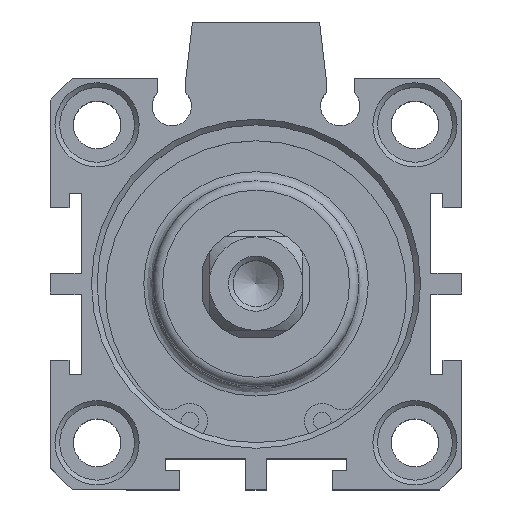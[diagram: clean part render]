
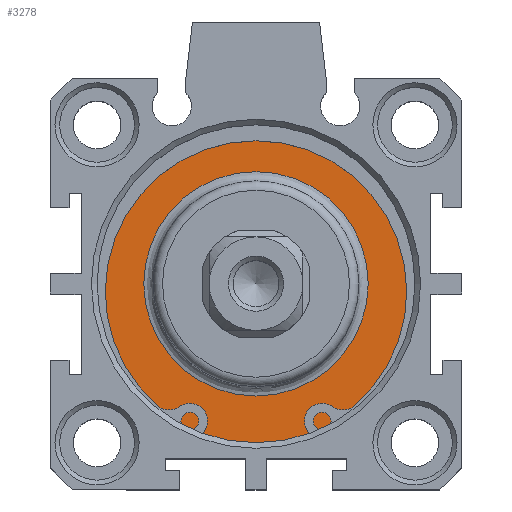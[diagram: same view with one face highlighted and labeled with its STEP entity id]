
A CAD part, top view. The second image highlights one B-rep face of the part: STEP entity #3278.
In plain terms, the highlighted planar face has unit normal (0, 0, 1).
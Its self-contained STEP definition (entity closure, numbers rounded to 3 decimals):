
#3227=CARTESIAN_POINT('',(-3.726,11.88,30.3));
#3228=VERTEX_POINT('',#3227);
#3229=CARTESIAN_POINT('',(-3.726,-0.12,30.3));
#3230=DIRECTION('',(0.0,0.0,1.0));
#3231=DIRECTION('',(0.0,-1.0,0.0));
#3232=AXIS2_PLACEMENT_3D('',#3229,#3230,#3231);
#3233=CIRCLE('',#3232,12.);
#3234=EDGE_CURVE('',#3228,#3228,#3233,.T.);
#3259=CARTESIAN_POINT('',(-3.726,13.88,30.3));
#3260=DIRECTION('',(0.0,0.0,1.0));
#3261=DIRECTION('',(1.0,0.0,0.0));
#3262=AXIS2_PLACEMENT_3D('',#3259,#3260,#3261);
#3263=PLANE('',#3262);
#3264=CARTESIAN_POINT('',(-3.726,16.88,30.3));
#3265=VERTEX_POINT('',#3264);
#3266=CARTESIAN_POINT('',(-3.726,-0.12,30.3));
#3267=DIRECTION('',(0.0,0.0,-1.0));
#3268=DIRECTION('',(0.0,1.0,0.0));
#3269=AXIS2_PLACEMENT_3D('',#3266,#3267,#3268);
#3270=CIRCLE('',#3269,17.);
#3271=EDGE_CURVE('',#3265,#3265,#3270,.T.);
#3272=ORIENTED_EDGE('',*,*,#3271,.F.);
#3273=EDGE_LOOP('',(#3272));
#3274=FACE_OUTER_BOUND('',#3273,.T.);
#3275=ORIENTED_EDGE('',*,*,#3234,.F.);
#3276=EDGE_LOOP('',(#3275));
#3277=FACE_BOUND('',#3276,.T.);
#3278=ADVANCED_FACE('',(#3274,#3277),#3263,.T.);
